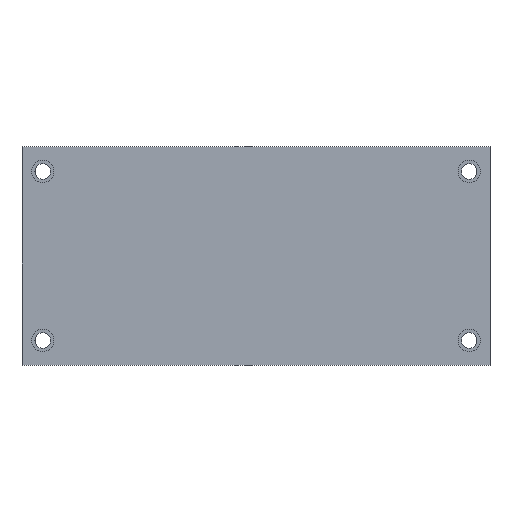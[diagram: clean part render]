
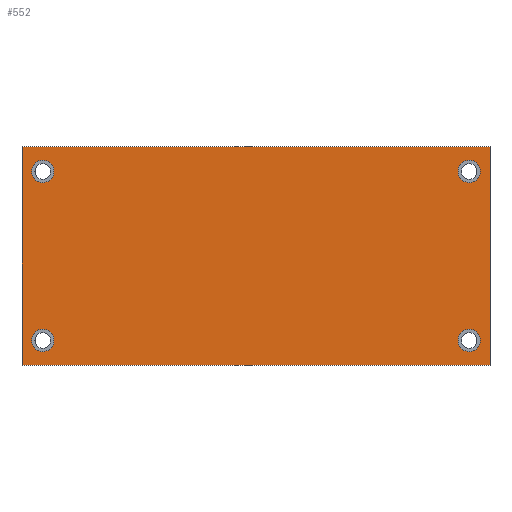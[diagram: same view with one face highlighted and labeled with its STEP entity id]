
A CAD part, top view. The second image highlights one B-rep face of the part: STEP entity #552.
In plain terms, the highlighted planar face has unit normal (0, 0, 1).
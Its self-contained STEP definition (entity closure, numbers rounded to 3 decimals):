
#8 = LINE ( 'NONE', #1406, #663 ) ;
#21 = EDGE_CURVE ( 'NONE', #1059, #346, #1566, .T. ) ;
#32 = CARTESIAN_POINT ( 'NONE',  ( 41., 16.25, 0. ) ) ;
#65 = DIRECTION ( 'NONE',  ( 1., 0., 0. ) ) ;
#67 = ORIENTED_EDGE ( 'NONE', *, *, #1061, .T. ) ;
#96 = EDGE_CURVE ( 'NONE', #1197, #392, #1615, .T. ) ;
#122 = ORIENTED_EDGE ( 'NONE', *, *, #497, .F. ) ;
#157 = ORIENTED_EDGE ( 'NONE', *, *, #670, .T. ) ;
#165 = CARTESIAN_POINT ( 'NONE',  ( -38.85, 16.25, 0. ) ) ;
#203 = DIRECTION ( 'NONE',  ( 0., 0., 1. ) ) ;
#215 = CARTESIAN_POINT ( 'NONE',  ( 41., -16.25, 0. ) ) ;
#241 = ORIENTED_EDGE ( 'NONE', *, *, #1178, .T. ) ;
#250 = CIRCLE ( 'NONE', #1602, 2.15 ) ;
#283 = AXIS2_PLACEMENT_3D ( 'NONE', #693, #1638, #836 ) ;
#296 = DIRECTION ( 'NONE',  ( 0., 0., 1. ) ) ;
#304 = VECTOR ( 'NONE', #452, 1000. ) ;
#306 = CARTESIAN_POINT ( 'NONE',  ( 45., 21., 0. ) ) ;
#308 = VECTOR ( 'NONE', #65, 1000. ) ;
#311 = VERTEX_POINT ( 'NONE', #1621 ) ;
#313 = EDGE_CURVE ( 'NONE', #1382, #359, #1205, .T. ) ;
#344 = DIRECTION ( 'NONE',  ( 1., 0., 0. ) ) ;
#346 = VERTEX_POINT ( 'NONE', #410 ) ;
#353 = EDGE_LOOP ( 'NONE', ( #1600, #1530 ) ) ;
#359 = VERTEX_POINT ( 'NONE', #553 ) ;
#360 = DIRECTION ( 'NONE',  ( 0., 0., 1. ) ) ;
#361 = EDGE_CURVE ( 'NONE', #346, #1059, #1617, .T. ) ;
#376 = VERTEX_POINT ( 'NONE', #165 ) ;
#392 = VERTEX_POINT ( 'NONE', #1562 ) ;
#403 = CIRCLE ( 'NONE', #283, 2.15 ) ;
#410 = CARTESIAN_POINT ( 'NONE',  ( 38.85, 16.25, 0. ) ) ;
#413 = LINE ( 'NONE', #736, #308 ) ;
#417 = DIRECTION ( 'NONE',  ( 1., 0., 0. ) ) ;
#418 = AXIS2_PLACEMENT_3D ( 'NONE', #1105, #1248, #831 ) ;
#422 = CARTESIAN_POINT ( 'NONE',  ( -45., 21., 0. ) ) ;
#452 = DIRECTION ( 'NONE',  ( 0., 1., 0. ) ) ;
#472 = ORIENTED_EDGE ( 'NONE', *, *, #313, .F. ) ;
#475 = AXIS2_PLACEMENT_3D ( 'NONE', #617, #360, #491 ) ;
#484 = DIRECTION ( 'NONE',  ( 1., 0., 0. ) ) ;
#491 = DIRECTION ( 'NONE',  ( 1., 0., 0. ) ) ;
#497 = EDGE_CURVE ( 'NONE', #359, #1382, #594, .T. ) ;
#543 = EDGE_CURVE ( 'NONE', #376, #906, #250, .T. ) ;
#548 = VERTEX_POINT ( 'NONE', #1309 ) ;
#552 = ADVANCED_FACE ( 'NONE', ( #1014, #1184, #1131, #967, #1402 ), #1323, .T. ) ;
#553 = CARTESIAN_POINT ( 'NONE',  ( -38.85, -16.25, 0. ) ) ;
#562 = DIRECTION ( 'NONE',  ( 0., -1., 0. ) ) ;
#594 = CIRCLE ( 'NONE', #1429, 2.15 ) ;
#617 = CARTESIAN_POINT ( 'NONE',  ( 0., 0., 0. ) ) ;
#647 = CARTESIAN_POINT ( 'NONE',  ( -43.15, 16.25, 0. ) ) ;
#655 = LINE ( 'NONE', #1150, #304 ) ;
#663 = VECTOR ( 'NONE', #1272, 1000. ) ;
#670 = EDGE_CURVE ( 'NONE', #392, #1054, #413, .T. ) ;
#693 = CARTESIAN_POINT ( 'NONE',  ( -41., 16.25, 0. ) ) ;
#712 = VERTEX_POINT ( 'NONE', #306 ) ;
#736 = CARTESIAN_POINT ( 'NONE',  ( -45., -21., 0. ) ) ;
#783 = EDGE_LOOP ( 'NONE', ( #1681, #157, #67, #241 ) ) ;
#831 = DIRECTION ( 'NONE',  ( 1., 0., 0. ) ) ;
#836 = DIRECTION ( 'NONE',  ( 1., 0., 0. ) ) ;
#864 = CARTESIAN_POINT ( 'NONE',  ( -45., 21., 0. ) ) ;
#903 = AXIS2_PLACEMENT_3D ( 'NONE', #32, #296, #417 ) ;
#906 = VERTEX_POINT ( 'NONE', #647 ) ;
#910 = CARTESIAN_POINT ( 'NONE',  ( -41., 16.25, 0. ) ) ;
#918 = DIRECTION ( 'NONE',  ( 0., 0., 1. ) ) ;
#967 = FACE_BOUND ( 'NONE', #1482, .T. ) ;
#982 = CARTESIAN_POINT ( 'NONE',  ( -43.15, -16.25, 0. ) ) ;
#1014 = FACE_BOUND ( 'NONE', #1616, .T. ) ;
#1018 = CARTESIAN_POINT ( 'NONE',  ( 43.15, 16.25, 0. ) ) ;
#1031 = CARTESIAN_POINT ( 'NONE',  ( 41., -16.25, 0. ) ) ;
#1054 = VERTEX_POINT ( 'NONE', #1664 ) ;
#1057 = DIRECTION ( 'NONE',  ( 1., 0., 0. ) ) ;
#1059 = VERTEX_POINT ( 'NONE', #1018 ) ;
#1061 = EDGE_CURVE ( 'NONE', #1054, #712, #655, .T. ) ;
#1105 = CARTESIAN_POINT ( 'NONE',  ( -41., -16.25, 0. ) ) ;
#1131 = FACE_BOUND ( 'NONE', #1502, .T. ) ;
#1150 = CARTESIAN_POINT ( 'NONE',  ( 45., 21., 0. ) ) ;
#1162 = DIRECTION ( 'NONE',  ( 1., 0., 0. ) ) ;
#1168 = DIRECTION ( 'NONE',  ( 0., 0., 1. ) ) ;
#1178 = EDGE_CURVE ( 'NONE', #712, #1197, #8, .T. ) ;
#1184 = FACE_BOUND ( 'NONE', #353, .T. ) ;
#1197 = VERTEX_POINT ( 'NONE', #864 ) ;
#1205 = CIRCLE ( 'NONE', #418, 2.15 ) ;
#1215 = EDGE_CURVE ( 'NONE', #311, #548, #1708, .T. ) ;
#1229 = ORIENTED_EDGE ( 'NONE', *, *, #361, .F. ) ;
#1236 = EDGE_CURVE ( 'NONE', #548, #311, #1661, .T. ) ;
#1243 = ORIENTED_EDGE ( 'NONE', *, *, #21, .F. ) ;
#1248 = DIRECTION ( 'NONE',  ( 0., 0., 1. ) ) ;
#1272 = DIRECTION ( 'NONE',  ( -1., 0., 0. ) ) ;
#1309 = CARTESIAN_POINT ( 'NONE',  ( 43.15, -16.25, 0. ) ) ;
#1317 = CARTESIAN_POINT ( 'NONE',  ( -41., -16.25, 0. ) ) ;
#1323 = PLANE ( 'NONE',  #475 ) ;
#1360 = CARTESIAN_POINT ( 'NONE',  ( 41., 16.25, 0. ) ) ;
#1365 = EDGE_CURVE ( 'NONE', #906, #376, #403, .T. ) ;
#1382 = VERTEX_POINT ( 'NONE', #982 ) ;
#1402 = FACE_OUTER_BOUND ( 'NONE', #783, .T. ) ;
#1406 = CARTESIAN_POINT ( 'NONE',  ( -45., 21., 0. ) ) ;
#1429 = AXIS2_PLACEMENT_3D ( 'NONE', #1317, #1698, #484 ) ;
#1471 = AXIS2_PLACEMENT_3D ( 'NONE', #1360, #1508, #1519 ) ;
#1481 = VECTOR ( 'NONE', #562, 1000. ) ;
#1482 = EDGE_LOOP ( 'NONE', ( #1579, #1558 ) ) ;
#1484 = AXIS2_PLACEMENT_3D ( 'NONE', #1031, #203, #1162 ) ;
#1502 = EDGE_LOOP ( 'NONE', ( #1243, #1229 ) ) ;
#1508 = DIRECTION ( 'NONE',  ( 0., 0., 1. ) ) ;
#1519 = DIRECTION ( 'NONE',  ( 1., 0., 0. ) ) ;
#1530 = ORIENTED_EDGE ( 'NONE', *, *, #1215, .F. ) ;
#1558 = ORIENTED_EDGE ( 'NONE', *, *, #1365, .F. ) ;
#1562 = CARTESIAN_POINT ( 'NONE',  ( -45., -21., 0. ) ) ;
#1566 = CIRCLE ( 'NONE', #1471, 2.15 ) ;
#1579 = ORIENTED_EDGE ( 'NONE', *, *, #543, .F. ) ;
#1589 = AXIS2_PLACEMENT_3D ( 'NONE', #215, #1168, #344 ) ;
#1600 = ORIENTED_EDGE ( 'NONE', *, *, #1236, .F. ) ;
#1602 = AXIS2_PLACEMENT_3D ( 'NONE', #910, #918, #1057 ) ;
#1615 = LINE ( 'NONE', #422, #1481 ) ;
#1616 = EDGE_LOOP ( 'NONE', ( #122, #472 ) ) ;
#1617 = CIRCLE ( 'NONE', #903, 2.15 ) ;
#1621 = CARTESIAN_POINT ( 'NONE',  ( 38.85, -16.25, 0. ) ) ;
#1638 = DIRECTION ( 'NONE',  ( 0., 0., 1. ) ) ;
#1661 = CIRCLE ( 'NONE', #1589, 2.15 ) ;
#1664 = CARTESIAN_POINT ( 'NONE',  ( 45., -21., 0. ) ) ;
#1681 = ORIENTED_EDGE ( 'NONE', *, *, #96, .T. ) ;
#1698 = DIRECTION ( 'NONE',  ( 0., 0., 1. ) ) ;
#1708 = CIRCLE ( 'NONE', #1484, 2.15 ) ;
